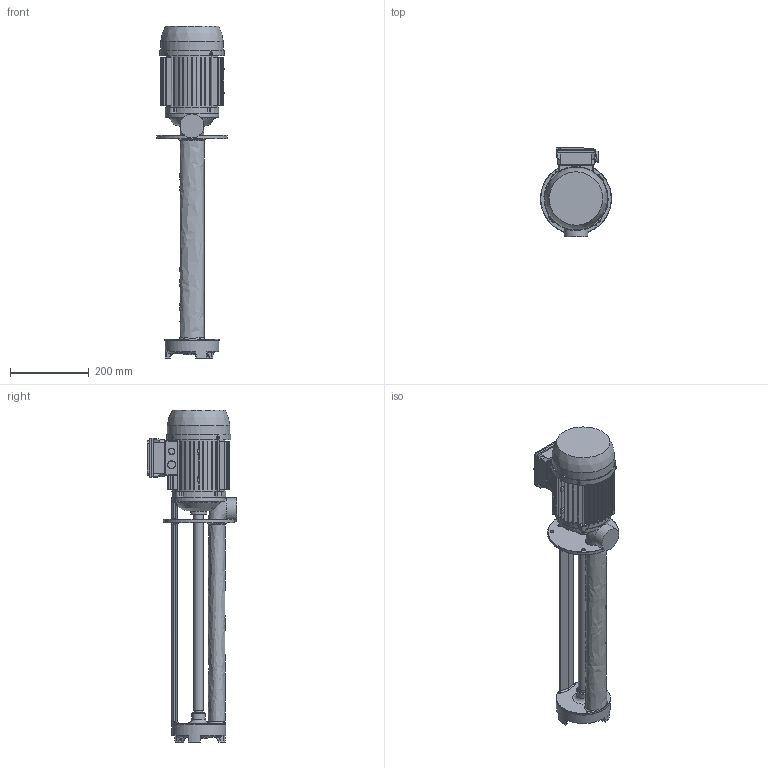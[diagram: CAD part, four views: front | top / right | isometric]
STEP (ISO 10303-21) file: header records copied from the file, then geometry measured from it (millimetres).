
FILE_DESCRIPTION(/* description */ (''),/* implementation_level */ '2;1');
FILE_NAME(/* name */ 'C:\Users\vgiaretta\OneDrive - MIG SpA\Desktop\YT80SPB++550.stp',/* time_stamp */ '2018-03-08T18:18:26+01:00',/* author */ ('vgiaretta'),/* organization */ (''),/* preprocessor_version */ 'ST-DEVELOPER v17',/* originating_system */ 'Autodesk Inventor 2018',/* authorisation */ '');
FILE_SCHEMA (('AUTOMOTIVE_DESIGN { 1 0 10303 214 3 1 1 }'));
Products named in the file (1): YT80SPB++550 in lavorazione_iLogic_Shrinkwrap
Bounding box: 180.26 x 227.93 x 842.98 mm (x, y, z)
Volume: 6627899 mm3; surface area: 684627.9 mm2
Topology: 1 solids, 21 shells, 1485 faces, 4134 edges, 2760 vertices
Faces by surface type: plane 752, cylinder 427, cone 145, bspline 91, torus 56, sphere 14
Full cylindrical faces by diameter (mm): 2.53 x2, 3 x4, 3.15 x1, 3.242 x6, 3.5 x8, 4 x8, 4.134 x12, 4.3 x4, 4.35 x4, 4.7 x6, 5 x4, 5.5 x4, 7.4 x4, 8.5 x4, 9 x8, 10 x1, 11 x1, 14.6 x2, 18.6 x3, 20 x3, 23 x2, 23.5 x1, 24.8 x1, 28 x1, 28.3 x1, 28.4 x1, 30 x1, 32 x2, 34 x1, 41 x1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
Entity records: 56514 total; most frequent: CARTESIAN_POINT 17901, ORIENTED_EDGE 8238, DIRECTION 7132, EDGE_CURVE 4119, VERTEX_POINT 2760, AXIS2_PLACEMENT_3D 2623, LINE 1886, VECTOR 1886
